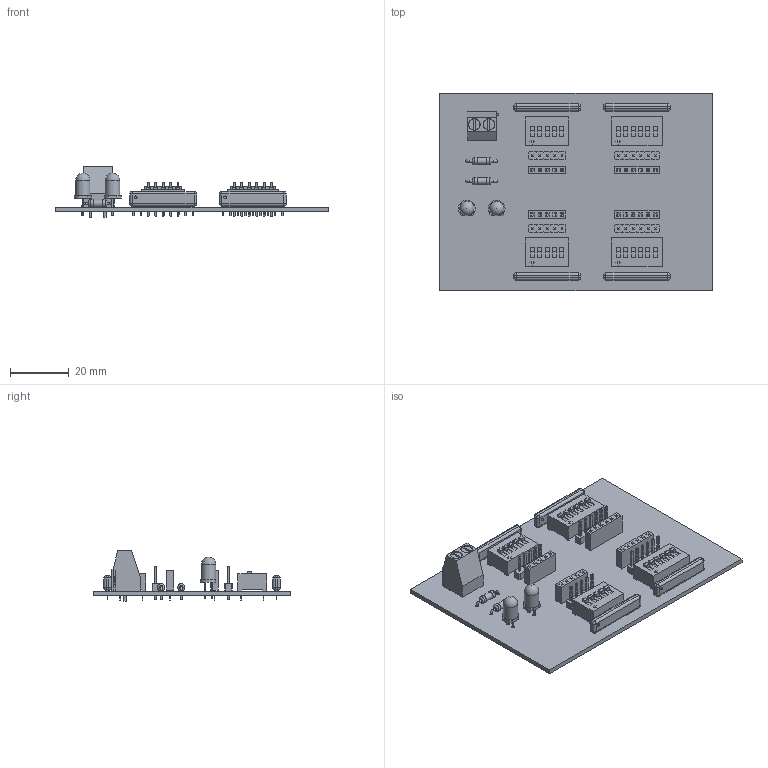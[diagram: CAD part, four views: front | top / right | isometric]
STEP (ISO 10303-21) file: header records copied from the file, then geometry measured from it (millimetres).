
FILE_DESCRIPTION(('KiCad electronic assembly'),'2;1');
FILE_NAME('led.step','2022-02-14T15:23:29',('An Author'),('A Company'), 'Open CASCADE STEP processor 6.9','KiCad to STEP converter','Unknown' );
FILE_SCHEMA(('AUTOMOTIVE_DESIGN { 1 0 10303 214 1 1 1 1 }'));
Length unit declared in the file: millimetre
Products named in the file (22): Open CASCADE STEP translator 6.9 1; SW_DIP_SPSTx06_Slide_9.78x17.42mm_W7.62mm_P2.54mm; SOLID; LED_D5.0mm; R_Axial_DIN0207_L6.3mm_D2.5mm_P10.16mm_Horizontal; R_Array_SIP9; PinHeader_1x06_P2.54mm_Vertical; TerminalBlock_Phoenix_MKDS-1,5-2_1x02_P5.00mm_Horizontal; PinSocket_1x05_P2.54mm_Vertical; PinSocket_1x06_P2.54mm_Vertical; PinHeader_1x05_P2.54mm_Vertical; SW_DIP_SPSTx05_Slide_9.78x14.88mm_W7.62mm_P2.54mm; COMPOUND
Assembly tree (32 placements, depth 3):
  Open CASCADE STEP translator 6.9 1
    SW_DIP_SPSTx06_Slide_9.78x17.42mm_W7.62mm_P2.54mm  x2
      SOLID
    LED_D5.0mm  x2
      SOLID
    R_Axial_DIN0207_L6.3mm_D2.5mm_P10.16mm_Horizontal  x2
      SOLID
    R_Array_SIP9  x4
      SOLID
    PinHeader_1x06_P2.54mm_Vertical  x2
      SOLID
    TerminalBlock_Phoenix_MKDS-1,5-2_1x02_P5.00mm_Horizontal
      SOLID
    PinSocket_1x05_P2.54mm_Vertical  x2
      SOLID
    PinSocket_1x06_P2.54mm_Vertical  x2
      SOLID
    PinHeader_1x05_P2.54mm_Vertical  x2
      SOLID
    SW_DIP_SPSTx05_Slide_9.78x14.88mm_W7.62mm_P2.54mm  x2
      SOLID
    COMPOUND
Bounding box: 93 x 67.5 x 17.3 mm (x, y, z)
Volume: 17208.6 mm3; surface area: 22534.4 mm2
Topology: 22 solids, 22 shells, 2747 faces, 6891 edges, 4420 vertices
Faces by surface type: plane 2445, cylinder 252, sphere 34, torus 8, bspline 8
Full cylindrical faces by diameter (mm): 0.6 x8, 0.8 x84, 0.9 x4, 1 x48, 1.3 x2, 2.25 x2, 2.5 x4, 3.8 x2, 4 x2, 4.9 x2
Entity records: 95899 total; most frequent: CARTESIAN_POINT 14975, DIRECTION 13515, LINE 9593, VECTOR 9593, ORIENTED_EDGE 6950, PCURVE 6950, DEFINITIONAL_REPRESENTATION 6950, EDGE_CURVE 3475
